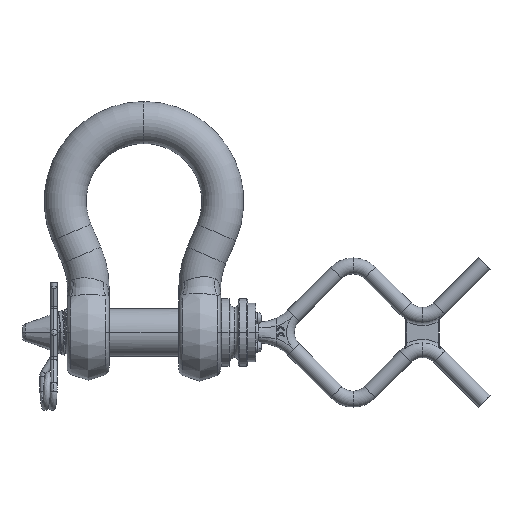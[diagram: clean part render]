
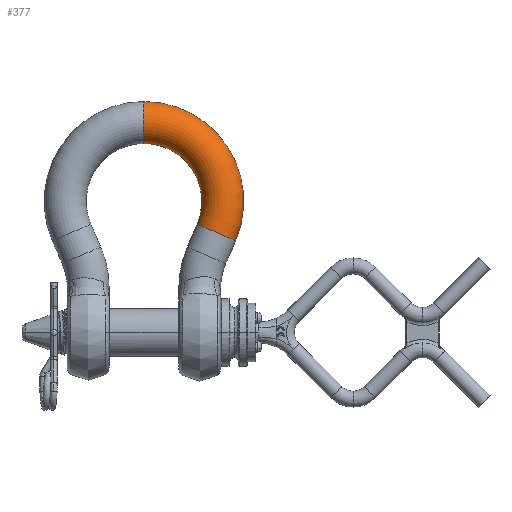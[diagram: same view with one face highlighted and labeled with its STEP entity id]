
A CAD part, top view. The second image highlights one B-rep face of the part: STEP entity #377.
In plain terms, the highlighted toroidal (fillet/blend) face has major radius 94 mm and minor radius 25 mm.
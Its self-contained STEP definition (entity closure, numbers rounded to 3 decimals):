
#377=ADVANCED_FACE('',(#1606),#1607,.T.);
#1606=FACE_OUTER_BOUND('',#5120,.T.);
#1607=TOROIDAL_SURFACE('',#5121,94.0,25.0);
#5120=EDGE_LOOP('',(#22417,#22418,#22419,#22420));
#5121=AXIS2_PLACEMENT_3D('',#22421,#22422,#22423);
#22417=ORIENTED_EDGE('',*,*,#28135,.T.);
#22418=ORIENTED_EDGE('',*,*,#28388,.T.);
#22419=ORIENTED_EDGE('',*,*,#28138,.T.);
#22420=ORIENTED_EDGE('',*,*,#28393,.F.);
#22421=CARTESIAN_POINT('',(0.0,0.0,0.0));
#22422=DIRECTION('',(0.0,-0.0,1.0));
#22423=DIRECTION('',(0.,1.0,0.0));
#28135=EDGE_CURVE('',#30831,#30832,#30833,.T.);
#28138=EDGE_CURVE('',#30838,#30836,#30839,.T.);
#28388=EDGE_CURVE('',#30832,#30838,#31331,.T.);
#28393=EDGE_CURVE('',#30831,#30836,#31340,.T.);
#30831=VERTEX_POINT('',#35508);
#30832=VERTEX_POINT('',#35509);
#30833=CIRCLE('',#35510,119.0);
#30836=VERTEX_POINT('',#35513);
#30838=VERTEX_POINT('',#35515);
#30839=CIRCLE('',#35516,69.0);
#31331=CIRCLE('',#37968,25.0);
#31340=CIRCLE('',#38003,25.0);
#35508=CARTESIAN_POINT('',(109.324,-47.002,0.));
#35509=CARTESIAN_POINT('',(0.,119.0,0.));
#35510=AXIS2_PLACEMENT_3D('',#59735,#59736,#59737);
#35513=CARTESIAN_POINT('',(63.39,-27.253,0.));
#35515=CARTESIAN_POINT('',(0.,69.0,0.));
#35516=AXIS2_PLACEMENT_3D('',#59744,#59745,#59746);
#37968=AXIS2_PLACEMENT_3D('',#60081,#60082,#60083);
#38003=AXIS2_PLACEMENT_3D('',#60086,#60087,#60088);
#59735=CARTESIAN_POINT('',(0.0,0.0,0.));
#59736=DIRECTION('',(0.0,-0.0,1.0));
#59737=DIRECTION('',(1.0,0.0,-0.0));
#59744=CARTESIAN_POINT('',(0.0,0.0,0.));
#59745=DIRECTION('',(0.0,0.0,-1.0));
#59746=DIRECTION('',(0.,1.0,0.0));
#60081=CARTESIAN_POINT('',(0.,94.0,0.0));
#60082=DIRECTION('',(1.0,0.,-0.0));
#60083=DIRECTION('',(0.,1.0,0.0));
#60086=CARTESIAN_POINT('',(86.357,-37.127,0.0));
#60087=DIRECTION('',(-0.395,-0.919,-0.0));
#60088=DIRECTION('',(0.0,0.0,-1.0));
